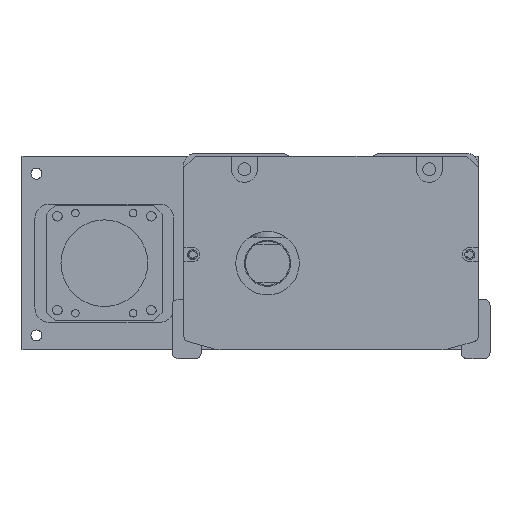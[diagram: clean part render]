
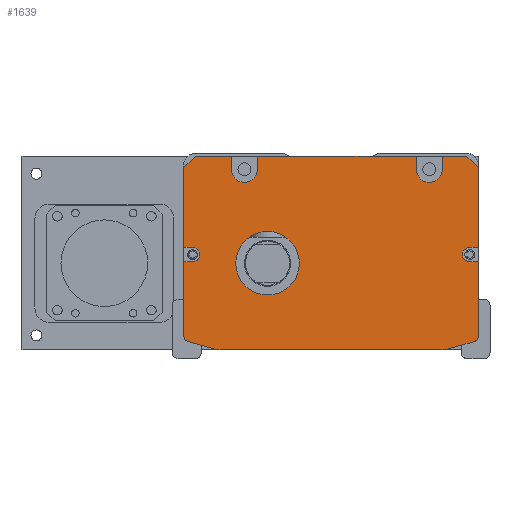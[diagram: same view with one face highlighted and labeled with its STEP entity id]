
A CAD part, front view. The second image highlights one B-rep face of the part: STEP entity #1639.
In plain terms, the highlighted planar face has unit normal (0, -1, 0).
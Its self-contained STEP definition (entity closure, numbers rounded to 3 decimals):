
#489=FACE_BOUND('',#3364,.T.);
#490=FACE_BOUND('',#3365,.T.);
#1639=ADVANCED_FACE('',(#489,#490),#2302,.F.);
#2302=PLANE('',#13443);
#3364=EDGE_LOOP('',(#5910,#5911,#5912,#5913,#5914,#5915,#5916,#5917,#5918,
#5919,#5920,#5921,#5922,#5923,#5924,#5925,#5926,#5927,#5928,#5929,#5930,
#5931,#5932,#5933,#5934,#5935,#5936,#5937));
#3365=EDGE_LOOP('',(#5938));
#4370=CIRCLE('',#13434,4.5);
#4371=CIRCLE('',#13435,4.5);
#4372=CIRCLE('',#13436,2.5);
#4373=CIRCLE('',#13437,2.);
#4374=CIRCLE('',#13438,10.);
#4375=CIRCLE('',#13439,10.);
#4376=CIRCLE('',#13440,2.);
#4377=CIRCLE('',#13441,2.5);
#4378=CIRCLE('',#13442,11.);
#5910=ORIENTED_EDGE('',*,*,#9705,.T.);
#5911=ORIENTED_EDGE('',*,*,#10226,.T.);
#5912=ORIENTED_EDGE('',*,*,#10227,.T.);
#5913=ORIENTED_EDGE('',*,*,#10228,.F.);
#5914=ORIENTED_EDGE('',*,*,#10229,.T.);
#5915=ORIENTED_EDGE('',*,*,#10230,.F.);
#5916=ORIENTED_EDGE('',*,*,#10231,.T.);
#5917=ORIENTED_EDGE('',*,*,#10232,.F.);
#5918=ORIENTED_EDGE('',*,*,#10233,.T.);
#5919=ORIENTED_EDGE('',*,*,#10234,.F.);
#5920=ORIENTED_EDGE('',*,*,#10235,.T.);
#5921=ORIENTED_EDGE('',*,*,#10236,.T.);
#5922=ORIENTED_EDGE('',*,*,#9723,.T.);
#5923=ORIENTED_EDGE('',*,*,#10237,.T.);
#5924=ORIENTED_EDGE('',*,*,#10238,.T.);
#5925=ORIENTED_EDGE('',*,*,#10239,.T.);
#5926=ORIENTED_EDGE('',*,*,#9719,.T.);
#5927=ORIENTED_EDGE('',*,*,#10240,.T.);
#5928=ORIENTED_EDGE('',*,*,#10241,.T.);
#5929=ORIENTED_EDGE('',*,*,#10242,.T.);
#5930=ORIENTED_EDGE('',*,*,#10243,.T.);
#5931=ORIENTED_EDGE('',*,*,#10244,.T.);
#5932=ORIENTED_EDGE('',*,*,#10245,.T.);
#5933=ORIENTED_EDGE('',*,*,#10246,.T.);
#5934=ORIENTED_EDGE('',*,*,#9709,.T.);
#5935=ORIENTED_EDGE('',*,*,#10247,.T.);
#5936=ORIENTED_EDGE('',*,*,#10248,.T.);
#5937=ORIENTED_EDGE('',*,*,#10249,.T.);
#5938=ORIENTED_EDGE('',*,*,#10250,.T.);
#8459=VERTEX_POINT('',#18513);
#8460=VERTEX_POINT('',#18515);
#8463=VERTEX_POINT('',#18521);
#8464=VERTEX_POINT('',#18523);
#8473=VERTEX_POINT('',#18542);
#8474=VERTEX_POINT('',#18544);
#8477=VERTEX_POINT('',#18550);
#8478=VERTEX_POINT('',#18552);
#8830=VERTEX_POINT('',#19619);
#8831=VERTEX_POINT('',#19621);
#8832=VERTEX_POINT('',#19623);
#8833=VERTEX_POINT('',#19625);
#8834=VERTEX_POINT('',#19627);
#8835=VERTEX_POINT('',#19629);
#8836=VERTEX_POINT('',#19631);
#8837=VERTEX_POINT('',#19633);
#8838=VERTEX_POINT('',#19635);
#8839=VERTEX_POINT('',#19637);
#8840=VERTEX_POINT('',#19640);
#8841=VERTEX_POINT('',#19642);
#8842=VERTEX_POINT('',#19645);
#8843=VERTEX_POINT('',#19647);
#8844=VERTEX_POINT('',#19649);
#8845=VERTEX_POINT('',#19651);
#8846=VERTEX_POINT('',#19653);
#8847=VERTEX_POINT('',#19655);
#8848=VERTEX_POINT('',#19658);
#8849=VERTEX_POINT('',#19660);
#8850=VERTEX_POINT('',#19663);
#9705=EDGE_CURVE('',#8460,#8459,#11417,.T.);
#9709=EDGE_CURVE('',#8464,#8463,#11421,.T.);
#9719=EDGE_CURVE('',#8474,#8473,#11431,.T.);
#9723=EDGE_CURVE('',#8478,#8477,#11435,.T.);
#10226=EDGE_CURVE('',#8459,#8830,#11715,.T.);
#10227=EDGE_CURVE('',#8830,#8831,#11716,.T.);
#10228=EDGE_CURVE('',#8832,#8831,#11717,.T.);
#10229=EDGE_CURVE('',#8832,#8833,#4370,.T.);
#10230=EDGE_CURVE('',#8834,#8833,#11718,.T.);
#10231=EDGE_CURVE('',#8834,#8835,#11719,.T.);
#10232=EDGE_CURVE('',#8836,#8835,#11720,.T.);
#10233=EDGE_CURVE('',#8836,#8837,#4371,.T.);
#10234=EDGE_CURVE('',#8838,#8837,#11721,.T.);
#10235=EDGE_CURVE('',#8838,#8839,#11722,.T.);
#10236=EDGE_CURVE('',#8839,#8478,#11723,.T.);
#10237=EDGE_CURVE('',#8477,#8840,#11724,.T.);
#10238=EDGE_CURVE('',#8840,#8841,#4372,.T.);
#10239=EDGE_CURVE('',#8841,#8474,#11725,.T.);
#10240=EDGE_CURVE('',#8473,#8842,#4373,.T.);
#10241=EDGE_CURVE('',#8842,#8843,#11726,.T.);
#10242=EDGE_CURVE('',#8843,#8844,#4374,.T.);
#10243=EDGE_CURVE('',#8844,#8845,#11727,.T.);
#10244=EDGE_CURVE('',#8845,#8846,#4375,.T.);
#10245=EDGE_CURVE('',#8846,#8847,#11728,.T.);
#10246=EDGE_CURVE('',#8847,#8464,#4376,.T.);
#10247=EDGE_CURVE('',#8463,#8848,#11729,.T.);
#10248=EDGE_CURVE('',#8848,#8849,#4377,.T.);
#10249=EDGE_CURVE('',#8849,#8460,#11730,.T.);
#10250=EDGE_CURVE('',#8850,#8850,#4378,.T.);
#11417=LINE('',#18514,#12216);
#11421=LINE('',#18522,#12220);
#11431=LINE('',#18543,#12230);
#11435=LINE('',#18551,#12234);
#11715=LINE('',#19618,#12514);
#11716=LINE('',#19620,#12515);
#11717=LINE('',#19622,#12516);
#11718=LINE('',#19626,#12517);
#11719=LINE('',#19628,#12518);
#11720=LINE('',#19630,#12519);
#11721=LINE('',#19634,#12520);
#11722=LINE('',#19636,#12521);
#11723=LINE('',#19638,#12522);
#11724=LINE('',#19639,#12523);
#11725=LINE('',#19643,#12524);
#11726=LINE('',#19646,#12525);
#11727=LINE('',#19650,#12526);
#11728=LINE('',#19654,#12527);
#11729=LINE('',#19657,#12528);
#11730=LINE('',#19661,#12529);
#12216=VECTOR('',#14588,1.);
#12220=VECTOR('',#14592,1.);
#12230=VECTOR('',#14604,1.);
#12234=VECTOR('',#14608,1.);
#12514=VECTOR('',#15758,1.);
#12515=VECTOR('',#15759,1.);
#12516=VECTOR('',#15760,1.);
#12517=VECTOR('',#15763,1.);
#12518=VECTOR('',#15764,1.);
#12519=VECTOR('',#15765,1.);
#12520=VECTOR('',#15768,1.);
#12521=VECTOR('',#15769,1.);
#12522=VECTOR('',#15770,1.);
#12523=VECTOR('',#15771,1.);
#12524=VECTOR('',#15774,1.);
#12525=VECTOR('',#15777,1.);
#12526=VECTOR('',#15780,1.);
#12527=VECTOR('',#15783,1.);
#12528=VECTOR('',#15786,1.);
#12529=VECTOR('',#15789,1.);
#13434=AXIS2_PLACEMENT_3D('',#19624,#15761,#15762);
#13435=AXIS2_PLACEMENT_3D('',#19632,#15766,#15767);
#13436=AXIS2_PLACEMENT_3D('',#19641,#15772,#15773);
#13437=AXIS2_PLACEMENT_3D('',#19644,#15775,#15776);
#13438=AXIS2_PLACEMENT_3D('',#19648,#15778,#15779);
#13439=AXIS2_PLACEMENT_3D('',#19652,#15781,#15782);
#13440=AXIS2_PLACEMENT_3D('',#19656,#15784,#15785);
#13441=AXIS2_PLACEMENT_3D('',#19659,#15787,#15788);
#13442=AXIS2_PLACEMENT_3D('',#19662,#15790,#15791);
#13443=AXIS2_PLACEMENT_3D('',#19664,#15792,#15793);
#14588=DIRECTION('',(0.,0.,1.));
#14592=DIRECTION('',(0.,0.,1.));
#14604=DIRECTION('',(0.,0.,-1.));
#14608=DIRECTION('',(0.,0.,-1.));
#15758=DIRECTION('',(-0.707,0.,0.707));
#15759=DIRECTION('',(-1.,0.,0.));
#15760=DIRECTION('',(0.,0.,1.));
#15761=DIRECTION('',(0.,1.,0.));
#15762=DIRECTION('',(0.,0.,1.));
#15763=DIRECTION('',(0.,0.,-1.));
#15764=DIRECTION('',(-1.,0.,0.));
#15765=DIRECTION('',(0.,0.,1.));
#15766=DIRECTION('',(0.,1.,0.));
#15767=DIRECTION('',(0.,0.,1.));
#15768=DIRECTION('',(0.,0.,-1.));
#15769=DIRECTION('',(-1.,0.,0.));
#15770=DIRECTION('',(-0.707,0.,-0.707));
#15771=DIRECTION('',(1.,0.,0.));
#15772=DIRECTION('',(0.,1.,0.));
#15773=DIRECTION('',(0.,0.,1.));
#15774=DIRECTION('',(-1.,0.,0.));
#15775=DIRECTION('',(0.,-1.,0.));
#15776=DIRECTION('',(0.,0.,1.));
#15777=DIRECTION('',(0.963,0.,-0.269));
#15778=DIRECTION('',(0.,-1.,0.));
#15779=DIRECTION('',(0.,0.,1.));
#15780=DIRECTION('',(1.,0.,0.));
#15781=DIRECTION('',(0.,-1.,0.));
#15782=DIRECTION('',(0.,0.,-1.));
#15783=DIRECTION('',(0.963,0.,0.269));
#15784=DIRECTION('',(0.,-1.,0.));
#15785=DIRECTION('',(0.,0.,-1.));
#15786=DIRECTION('',(-1.,0.,0.));
#15787=DIRECTION('',(0.,1.,0.));
#15788=DIRECTION('',(0.,0.,1.));
#15789=DIRECTION('',(1.,0.,0.));
#15790=DIRECTION('',(0.,1.,0.));
#15791=DIRECTION('',(0.,0.,1.));
#15792=DIRECTION('',(0.,1.,0.));
#15793=DIRECTION('',(1.,0.,0.));
#18513=CARTESIAN_POINT('',(47.808,-17.5,-5.));
#18514=CARTESIAN_POINT('',(47.808,-17.5,-1.));
#18515=CARTESIAN_POINT('',(47.808,-17.5,-32.5));
#18521=CARTESIAN_POINT('',(47.808,-17.5,-37.5));
#18522=CARTESIAN_POINT('',(47.808,-17.5,-1.));
#18523=CARTESIAN_POINT('',(47.808,-17.5,-63.212));
#18542=CARTESIAN_POINT('',(-54.192,-17.5,-63.212));
#18543=CARTESIAN_POINT('',(-54.192,-17.5,-62.));
#18544=CARTESIAN_POINT('',(-54.192,-17.5,-37.5));
#18550=CARTESIAN_POINT('',(-54.192,-17.5,-32.5));
#18551=CARTESIAN_POINT('',(-54.192,-17.5,-62.));
#18552=CARTESIAN_POINT('',(-54.192,-17.5,-5.));
#19618=CARTESIAN_POINT('',(43.808,-17.5,-1.));
#19619=CARTESIAN_POINT('',(43.808,-17.5,-1.));
#19620=CARTESIAN_POINT('',(-3.192,-17.5,-1.));
#19621=CARTESIAN_POINT('',(35.308,-17.5,-1.));
#19622=CARTESIAN_POINT('',(35.308,-17.5,-1.));
#19623=CARTESIAN_POINT('',(35.308,-17.5,-5.5));
#19624=CARTESIAN_POINT('',(30.808,-17.5,-5.5));
#19625=CARTESIAN_POINT('',(26.308,-17.5,-5.5));
#19626=CARTESIAN_POINT('',(26.308,-17.5,-1.));
#19627=CARTESIAN_POINT('',(26.308,-17.5,-1.));
#19628=CARTESIAN_POINT('',(-54.192,-17.5,-1.));
#19629=CARTESIAN_POINT('',(-28.692,-17.5,-1.));
#19630=CARTESIAN_POINT('',(-28.692,-17.5,-3.5));
#19631=CARTESIAN_POINT('',(-28.692,-17.5,-5.5));
#19632=CARTESIAN_POINT('',(-33.192,-17.5,-5.5));
#19633=CARTESIAN_POINT('',(-37.692,-17.5,-5.5));
#19634=CARTESIAN_POINT('',(-37.692,-17.5,-1.));
#19635=CARTESIAN_POINT('',(-37.692,-17.5,-1.));
#19636=CARTESIAN_POINT('',(-54.192,-17.5,-1.));
#19637=CARTESIAN_POINT('',(-50.192,-17.5,-1.));
#19638=CARTESIAN_POINT('',(-54.192,-17.5,-5.));
#19639=CARTESIAN_POINT('',(-3.192,-17.5,-32.5));
#19640=CARTESIAN_POINT('',(-51.192,-17.5,-32.5));
#19641=CARTESIAN_POINT('',(-51.192,-17.5,-35.));
#19642=CARTESIAN_POINT('',(-51.192,-17.5,-37.5));
#19643=CARTESIAN_POINT('',(-3.192,-17.5,-37.5));
#19644=CARTESIAN_POINT('',(-52.192,-17.5,-63.212));
#19645=CARTESIAN_POINT('',(-52.731,-17.5,-65.138));
#19646=CARTESIAN_POINT('',(-55.807,-17.5,-64.279));
#19647=CARTESIAN_POINT('',(-43.809,-17.5,-67.631));
#19648=CARTESIAN_POINT('',(-41.118,-17.5,-58.));
#19649=CARTESIAN_POINT('',(-41.118,-17.5,-68.));
#19650=CARTESIAN_POINT('',(-54.692,-17.5,-68.));
#19651=CARTESIAN_POINT('',(34.733,-17.5,-68.));
#19652=CARTESIAN_POINT('',(34.733,-17.5,-58.));
#19653=CARTESIAN_POINT('',(37.424,-17.5,-67.631));
#19654=CARTESIAN_POINT('',(49.422,-17.5,-64.279));
#19655=CARTESIAN_POINT('',(46.346,-17.5,-65.138));
#19656=CARTESIAN_POINT('',(45.808,-17.5,-63.212));
#19657=CARTESIAN_POINT('',(-3.192,-17.5,-37.5));
#19658=CARTESIAN_POINT('',(44.808,-17.5,-37.5));
#19659=CARTESIAN_POINT('',(44.808,-17.5,-35.));
#19660=CARTESIAN_POINT('',(44.808,-17.5,-32.5));
#19661=CARTESIAN_POINT('',(-3.192,-17.5,-32.5));
#19662=CARTESIAN_POINT('',(-25.192,-17.5,-38.));
#19663=CARTESIAN_POINT('',(-25.192,-17.5,-27.));
#19664=CARTESIAN_POINT('',(-3.192,-17.5,-1.));
